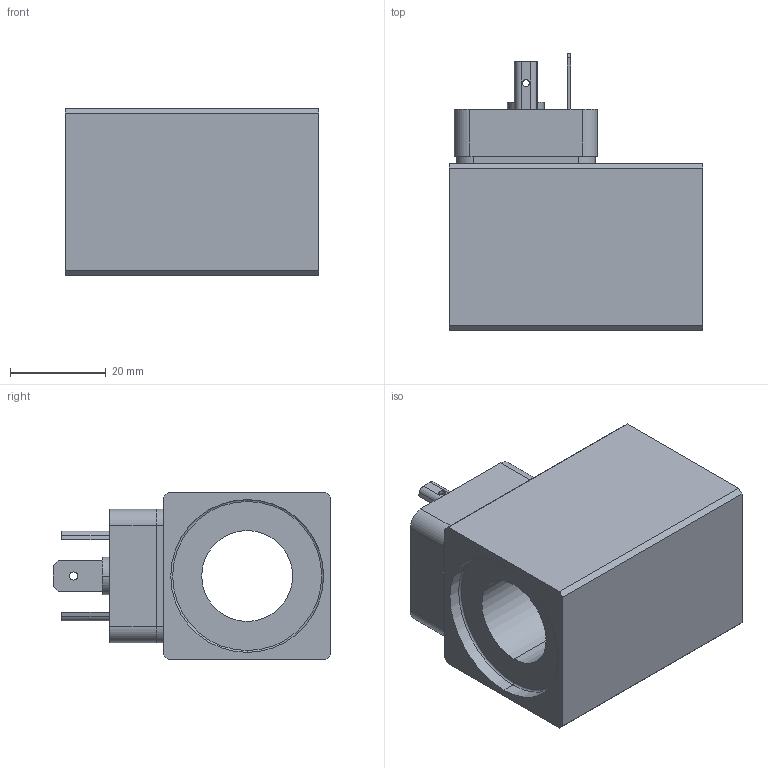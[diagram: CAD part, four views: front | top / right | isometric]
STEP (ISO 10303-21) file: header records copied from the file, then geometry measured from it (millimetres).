
FILE_DESCRIPTION (( 'STEP AP214' ), '1' );
FILE_NAME ('MDS35_19x50.STEP', '2015-07-15T11:10:33', ( '' ), ( '' ), 'SwSTEP 2.0', 'SolidWorks 2014', '' );
FILE_SCHEMA (( 'AUTOMOTIVE_DESIGN' ));
Length unit declared in the file: millimetre
Products named in the file (2): MDS35_19x50
Bounding box: 53 x 58.1 x 35 mm (x, y, z)
Volume: 56196.9 mm3; surface area: 16367.2 mm2
Topology: 1 solids, 6 shells, 283 faces, 723 edges, 473 vertices
Faces by surface type: plane 175, cylinder 96, torus 6, cone 4, bspline 2
Entity records: 11626 total; most frequent: CARTESIAN_POINT 1607, DIRECTION 1498, ORIENTED_EDGE 1446, EDGE_CURVE 723, AXIS2_PLACEMENT_3D 512, VECTOR 474, LINE 474, VERTEX_POINT 473
